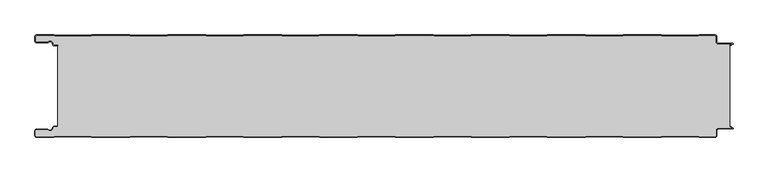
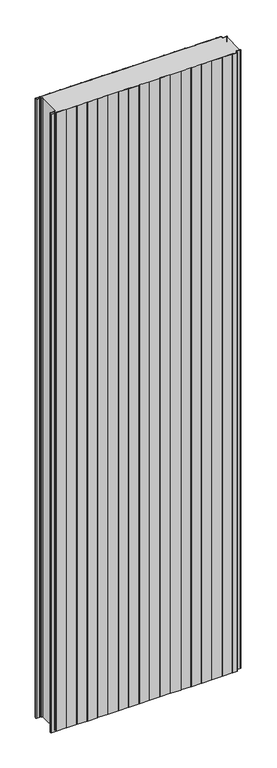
"""IFC4 building model written with IfcOpenShell, lengths in millimetres: plate geometry, ACH_Panel-Frigorífico_PUR-PIR : ACH_Panel-Frigorífico-PIR_150mm."""

from ifc_helpers import new_model, si_unit, point, frame_2d, origin, origin_with_axes, place, context, project, spatial, polyline, circle_curve, trimmed, segment, composite_curve, outline, extrude, source, transform, mapped, element, save


def plate_cd7e678b(model_context):
    return source(origin(), model_context, "Body", "SweptSolid", [
        extrude(outline(composite_curve([segment(trimmed(circle_curve(frame_2d((-497.49499, -9.0180361)), 2.50501), [point((-497.49499, -11.5230461))], [point((-500.0, -9.0180361))], False, "CARTESIAN"), True, "CONTINUOUS"), segment(polyline([(-500.0, -9.0180361), (-500.0, -2.50501)]), True, "CONTINUOUS"), segment(trimmed(circle_curve(frame_2d((-497.49499, -2.50501)), 2.50501), [point((-500.0, -2.50501))], [point((-497.49499, 0.0))], False, "CARTESIAN"), True, "CONTINUOUS"), segment(polyline([(-497.49499, 0.0), (-472.2103007, 0.0), (-471.028188, -0.6012024), (-417.6391467, -0.6012024), (-416.457034, 0.0), (-360.8776353, 0.0), (-359.6955227, -0.6012024), (-306.3064814, -0.6012024), (-305.1243687, 0.0), (-249.54497, 0.0), (-248.3628573, -0.6012024), (-194.973816, -0.6012024), (-193.7917033, 0.0), (-138.2123047, 0.0), (-137.030192, -0.6012024), (-83.6411507, -0.6012024), (-82.459038, 0.0), (-26.8796393, 0.0), (-25.6975267, -0.6012024), (27.6915146, -0.6012024), (28.8736273, 0.0), (84.453026, 0.0), (85.6351387, -0.6012024), (139.02418, -0.6012024), (140.2062927, 0.0), (195.7856913, 0.0), (196.967804, -0.6012024), (250.3568453, -0.6012024), (251.538958, 0.0), (307.1183566, 0.0), (308.3004693, -0.6012024), (361.6895106, -0.6012024), (362.8716233, 0.0), (418.451022, 0.0), (419.6331347, -0.6012024), (473.022176, -0.6012024), (474.2042886, 0.0), (497.49499, 0.0)]), True, "CONTINUOUS"), segment(trimmed(circle_curve(frame_2d((497.49499, -2.50501)), 2.50501), [point((497.49499, 0.0))], [point((500.0, -2.50501))], False, "CARTESIAN"), True, "CONTINUOUS"), segment(polyline([(500.0, -2.50501), (500.0, -10.0200401)]), True, "CONTINUOUS"), segment(trimmed(circle_curve(frame_2d((502.004008, -10.0200401)), 2.004008), [point((500.0, -10.0200401))], [point((502.004008, -12.0240481))], True, "CARTESIAN"), True, "CONTINUOUS"), segment(polyline([(502.004008, -12.0240481), (523.0460922, -12.0240481)]), True, "CONTINUOUS"), segment(trimmed(circle_curve(frame_2d((523.0460922, -13.0260521)), 1.002004), [point((523.0460922, -12.0240481))], [point((523.5470942, -13.893813))], False, "CARTESIAN"), True, "CONTINUOUS"), segment(polyline([(523.5470942, -13.893813), (519.5390782, -16.2078422), (519.1390782, -15.5150218), (522.183956, -13.7570608)]), True, "CONTINUOUS"), segment(trimmed(circle_curve(frame_2d((521.933956, -13.3240481)), 0.5), [point((522.183956, -13.7570608))], [point((521.933956, -12.8240481))], True, "CARTESIAN"), True, "CONTINUOUS"), segment(polyline([(521.933956, -12.8240481), (502.004008, -12.8240481)]), True, "CONTINUOUS"), segment(trimmed(circle_curve(frame_2d((502.004008, -10.0200401)), 2.804008), [point((502.004008, -12.8240481))], [point((499.2, -10.0200401))], False, "CARTESIAN"), True, "CONTINUOUS"), segment(polyline([(499.2, -10.0200401), (499.2, -2.50501)]), True, "CONTINUOUS"), segment(trimmed(circle_curve(frame_2d((497.49499, -2.50501)), 1.70501), [point((499.2, -2.50501))], [point((497.49499, -0.8))], True, "CARTESIAN"), True, "CONTINUOUS"), segment(polyline([(497.49499, -0.8), (474.396035, -0.8), (473.2139223, -1.4012024), (419.4413883, -1.4012024), (418.2592756, -0.8), (363.0633697, -0.8), (361.881257, -1.4012024), (308.108723, -1.4012024), (306.9266103, -0.8), (251.7307044, -0.8), (250.5485917, -1.4012024), (196.7760576, -1.4012024), (195.5939449, -0.8), (140.398039, -0.8), (139.2159263, -1.4012024), (85.4433923, -1.4012024), (84.2612796, -0.8), (29.0653737, -0.8), (27.883261, -1.4012024), (-25.889273, -1.4012024), (-27.0713857, -0.8), (-82.2672916, -0.8), (-83.4494043, -1.4012024), (-137.2219384, -1.4012024), (-138.4040511, -0.8), (-193.599957, -0.8), (-194.7820696, -1.4012024), (-248.5546037, -1.4012024), (-249.7367164, -0.8), (-304.9326223, -0.8), (-306.114735, -1.4012024), (-359.887269, -1.4012024), (-361.0693817, -0.8), (-416.2652876, -0.8), (-417.4474003, -1.4012024), (-471.2199344, -1.4012024), (-472.4020471, -0.8), (-497.49499, -0.8)]), True, "CONTINUOUS"), segment(trimmed(circle_curve(frame_2d((-497.49499, -2.50501)), 1.70501), [point((-497.49499, -0.8))], [point((-499.2, -2.50501))], True, "CARTESIAN"), True, "CONTINUOUS"), segment(polyline([(-499.2, -2.50501), (-499.2, -9.0180361)]), True, "CONTINUOUS"), segment(trimmed(circle_curve(frame_2d((-497.49499, -9.0180361)), 1.70501), [point((-499.2, -9.0180361))], [point((-497.49499, -10.7230461))], True, "CARTESIAN"), True, "CONTINUOUS"), segment(polyline([(-497.49499, -10.7230461), (-481.8173283, -10.7230461)]), True, "CONTINUOUS"), segment(trimmed(circle_curve(frame_2d((-481.8173283, -9.0180361)), 1.70501), [point((-481.8173283, -10.7230461))], [point((-480.6895701, -10.2967936))], True, "CARTESIAN"), True, "CONTINUOUS"), segment(trimmed(circle_curve(frame_2d((-477.8407481, -13.5270541)), 4.307014), [point((-480.6895701, -10.2967936))], [point((-473.7934788, -12.0539686))], False, "CARTESIAN"), True, "CONTINUOUS"), segment(polyline([(-473.7934788, -12.0539686), (-473.0450711, -14.1102019)]), True, "CONTINUOUS"), segment(trimmed(circle_curve(frame_2d((-471.4428858, -13.5270541)), 1.70501), [point((-473.0450711, -14.1102019))], [point((-471.4428858, -15.2320641))], True, "CARTESIAN"), True, "CONTINUOUS"), segment(polyline([(-471.4428858, -15.2320641), (-466.4328657, -15.2320641), (-466.4328657, -16.0320641), (-471.4428858, -16.0320641)]), True, "CONTINUOUS"), segment(trimmed(circle_curve(frame_2d((-471.4428858, -13.5270541)), 2.50501), [point((-471.4428858, -16.0320641))], [point((-473.7968252, -14.383818))], False, "CARTESIAN"), True, "CONTINUOUS"), segment(polyline([(-473.7968252, -14.383818), (-474.5452329, -12.3275847)]), True, "CONTINUOUS"), segment(trimmed(circle_curve(frame_2d((-477.8407481, -13.5270541)), 3.507014), [point((-474.5452329, -12.3275847))], [point((-480.1604199, -10.8967936))], True, "CARTESIAN"), True, "CONTINUOUS"), segment(trimmed(circle_curve(frame_2d((-481.8173283, -9.0180361)), 2.50501), [point((-480.1604199, -10.8967936))], [point((-481.8173283, -11.5230461))], False, "CARTESIAN"), True, "CONTINUOUS"), segment(polyline([(-481.8173283, -11.5230461), (-497.49499, -11.5230461)]), True, "CONTINUOUS")], self_intersect=False)), origin_with_axes(), (0.0, 0.0, 1.0), 3500.0),
        extrude(outline(composite_curve([segment(trimmed(circle_curve(frame_2d((-471.4428858, -13.5270541)), 1.70501), [point((-471.4428858, -15.2320641))], [point((-473.0450711, -14.1102019))], False, "CARTESIAN"), True, "CONTINUOUS"), segment(polyline([(-473.0450711, -14.1102019), (-473.7934788, -12.0539686)]), True, "CONTINUOUS"), segment(trimmed(circle_curve(frame_2d((-477.8407481, -13.5270541)), 4.307014), [point((-473.7934788, -12.0539686))], [point((-480.6895701, -10.2967936))], True, "CARTESIAN"), True, "CONTINUOUS"), segment(trimmed(circle_curve(frame_2d((-481.8173283, -9.0180361)), 1.70501), [point((-480.6895701, -10.2967936))], [point((-481.8173283, -10.7230461))], False, "CARTESIAN"), True, "CONTINUOUS"), segment(polyline([(-481.8173283, -10.7230461), (-497.49499, -10.7230461)]), True, "CONTINUOUS"), segment(trimmed(circle_curve(frame_2d((-497.49499, -9.0180361)), 1.70501), [point((-497.49499, -10.7230461))], [point((-499.2, -9.0180361))], False, "CARTESIAN"), True, "CONTINUOUS"), segment(polyline([(-499.2, -9.0180361), (-499.2, -2.50501)]), True, "CONTINUOUS"), segment(trimmed(circle_curve(frame_2d((-497.49499, -2.50501)), 1.70501), [point((-499.2, -2.50501))], [point((-497.49499, -0.8))], False, "CARTESIAN"), True, "CONTINUOUS"), segment(polyline([(-497.49499, -0.8), (-472.4020471, -0.8), (-471.2199344, -1.4012024), (-417.4474003, -1.4012024), (-416.2652876, -0.8), (-361.0693817, -0.8), (-359.887269, -1.4012024), (-306.114735, -1.4012024), (-304.9326223, -0.8), (-249.7367164, -0.8), (-248.5546037, -1.4012024), (-194.7820696, -1.4012024), (-193.599957, -0.8), (-138.4040511, -0.8), (-137.2219384, -1.4012024), (-83.4494043, -1.4012024), (-82.2672916, -0.8), (-27.0713857, -0.8), (-25.889273, -1.4012024), (27.883261, -1.4012024), (29.0653737, -0.8), (84.2612796, -0.8), (85.4433923, -1.4012024), (139.2159263, -1.4012024), (140.398039, -0.8), (195.5939449, -0.8), (196.7760576, -1.4012024), (250.5485917, -1.4012024), (251.7307044, -0.8), (306.9266103, -0.8), (308.108723, -1.4012024), (361.881257, -1.4012024), (363.0633697, -0.8), (418.2592756, -0.8), (419.4413883, -1.4012024), (473.2139223, -1.4012024), (474.396035, -0.8), (497.49499, -0.8)]), True, "CONTINUOUS"), segment(trimmed(circle_curve(frame_2d((497.49499, -2.50501)), 1.70501), [point((497.49499, -0.8))], [point((499.2, -2.50501))], False, "CARTESIAN"), True, "CONTINUOUS"), segment(polyline([(499.2, -2.50501), (499.2, -10.0200401)]), True, "CONTINUOUS"), segment(trimmed(circle_curve(frame_2d((502.004008, -10.0200401)), 2.804008), [point((499.2, -10.0200401))], [point((502.004008, -12.8240481))], True, "CARTESIAN"), True, "CONTINUOUS"), segment(polyline([(502.004008, -12.8240481), (521.933956, -12.8240481)]), True, "CONTINUOUS"), segment(trimmed(circle_curve(frame_2d((521.933956, -13.3240481)), 0.5), [point((521.933956, -12.8240481))], [point((522.183956, -13.7570608))], False, "CARTESIAN"), True, "CONTINUOUS"), segment(polyline([(522.183956, -13.7570608), (519.1390782, -15.5150218), (519.1390782, -134.4849782), (522.183956, -136.2429392)]), True, "CONTINUOUS"), segment(trimmed(circle_curve(frame_2d((521.933956, -136.6759519)), 0.5), [point((522.183956, -136.2429392))], [point((521.933956, -137.1759519))], False, "CARTESIAN"), True, "CONTINUOUS"), segment(polyline([(521.933956, -137.1759519), (502.004008, -137.1759519)]), True, "CONTINUOUS"), segment(trimmed(circle_curve(frame_2d((502.004008, -139.9799599)), 2.804008), [point((502.004008, -137.1759519))], [point((499.2, -139.9799599))], True, "CARTESIAN"), True, "CONTINUOUS"), segment(polyline([(499.2, -139.9799599), (499.2, -147.49499)]), True, "CONTINUOUS"), segment(trimmed(circle_curve(frame_2d((497.49499, -147.49499)), 1.70501), [point((499.2, -147.49499))], [point((497.49499, -149.2))], False, "CARTESIAN"), True, "CONTINUOUS"), segment(polyline([(497.49499, -149.2), (474.396035, -149.2), (473.2139223, -148.5987976), (419.4413883, -148.5987976), (418.2592756, -149.2), (363.0633697, -149.2), (361.881257, -148.5987976), (308.108723, -148.5987976), (306.9266103, -149.2), (251.7307044, -149.2), (250.5485917, -148.5987976), (196.7760576, -148.5987976), (195.5939449, -149.2), (140.398039, -149.2), (139.2159263, -148.5987976), (85.4433923, -148.5987976), (84.2612796, -149.2), (29.0653737, -149.2), (27.883261, -148.5987976), (-25.889273, -148.5987976), (-27.0713857, -149.2), (-82.2672916, -149.2), (-83.4494043, -148.5987976), (-137.2219384, -148.5987976), (-138.4040511, -149.2), (-193.599957, -149.2), (-194.7820696, -148.5987976), (-248.5546037, -148.5987976), (-249.7367164, -149.2), (-304.9326223, -149.2), (-306.114735, -148.5987976), (-359.887269, -148.5987976), (-361.0693817, -149.2), (-416.2652876, -149.2), (-417.4474003, -148.5987976), (-471.2199344, -148.5987976), (-472.4020471, -149.2), (-497.49499, -149.2)]), True, "CONTINUOUS"), segment(trimmed(circle_curve(frame_2d((-497.49499, -147.49499)), 1.70501), [point((-497.49499, -149.2))], [point((-499.2, -147.49499))], False, "CARTESIAN"), True, "CONTINUOUS"), segment(polyline([(-499.2, -147.49499), (-499.2, -140.9819639)]), True, "CONTINUOUS"), segment(trimmed(circle_curve(frame_2d((-497.49499, -140.9819639)), 1.70501), [point((-499.2, -140.9819639))], [point((-497.49499, -139.2769539))], False, "CARTESIAN"), True, "CONTINUOUS"), segment(polyline([(-497.49499, -139.2769539), (-481.8173283, -139.2769539)]), True, "CONTINUOUS"), segment(trimmed(circle_curve(frame_2d((-481.8173283, -140.9819639)), 1.70501), [point((-481.8173283, -139.2769539))], [point((-480.6895701, -139.7032064))], False, "CARTESIAN"), True, "CONTINUOUS"), segment(trimmed(circle_curve(frame_2d((-477.8407481, -136.4729459)), 4.307014), [point((-480.6895701, -139.7032064))], [point((-473.7934788, -137.9460314))], True, "CARTESIAN"), True, "CONTINUOUS"), segment(polyline([(-473.7934788, -137.9460314), (-473.0450711, -135.8897981)]), True, "CONTINUOUS"), segment(trimmed(circle_curve(frame_2d((-471.4428858, -136.4729459)), 1.70501), [point((-473.0450711, -135.8897981))], [point((-471.4428858, -134.7679359))], False, "CARTESIAN"), True, "CONTINUOUS"), segment(polyline([(-471.4428858, -134.7679359), (-466.4328657, -134.7679359), (-466.4328657, -15.2320641), (-471.4428858, -15.2320641)]), True, "CONTINUOUS")], self_intersect=False)), origin_with_axes(), (0.0, 0.0, 1.0), 3500.0),
        extrude(outline(composite_curve([segment(polyline([(-497.49499, -138.4769539), (-481.8173283, -138.4769539)]), True, "CONTINUOUS"), segment(trimmed(circle_curve(frame_2d((-481.8173283, -140.9819639)), 2.50501), [point((-481.8173283, -138.4769539))], [point((-480.1604199, -139.1032064))], False, "CARTESIAN"), True, "CONTINUOUS"), segment(trimmed(circle_curve(frame_2d((-477.8407481, -136.4729459)), 3.507014), [point((-480.1604199, -139.1032064))], [point((-474.5452329, -137.6724153))], True, "CARTESIAN"), True, "CONTINUOUS"), segment(polyline([(-474.5452329, -137.6724153), (-473.7968252, -135.616182)]), True, "CONTINUOUS"), segment(trimmed(circle_curve(frame_2d((-471.4428858, -136.4729459)), 2.50501), [point((-473.7968252, -135.616182))], [point((-471.4428858, -133.9679359))], False, "CARTESIAN"), True, "CONTINUOUS"), segment(polyline([(-471.4428858, -133.9679359), (-466.4328657, -133.9679359), (-466.4328657, -134.7679359), (-471.4428858, -134.7679359)]), True, "CONTINUOUS"), segment(trimmed(circle_curve(frame_2d((-471.4428858, -136.4729459)), 1.70501), [point((-471.4428858, -134.7679359))], [point((-473.0450711, -135.8897981))], True, "CARTESIAN"), True, "CONTINUOUS"), segment(polyline([(-473.0450711, -135.8897981), (-473.7934788, -137.9460314)]), True, "CONTINUOUS"), segment(trimmed(circle_curve(frame_2d((-477.8407481, -136.4729459)), 4.307014), [point((-473.7934788, -137.9460314))], [point((-480.6895701, -139.7032064))], False, "CARTESIAN"), True, "CONTINUOUS"), segment(trimmed(circle_curve(frame_2d((-481.8173283, -140.9819639)), 1.70501), [point((-480.6895701, -139.7032064))], [point((-481.8173283, -139.2769539))], True, "CARTESIAN"), True, "CONTINUOUS"), segment(polyline([(-481.8173283, -139.2769539), (-497.49499, -139.2769539)]), True, "CONTINUOUS"), segment(trimmed(circle_curve(frame_2d((-497.49499, -140.9819639)), 1.70501), [point((-497.49499, -139.2769539))], [point((-499.2, -140.9819639))], True, "CARTESIAN"), True, "CONTINUOUS"), segment(polyline([(-499.2, -140.9819639), (-499.2, -147.49499)]), True, "CONTINUOUS"), segment(trimmed(circle_curve(frame_2d((-497.49499, -147.49499)), 1.70501), [point((-499.2, -147.49499))], [point((-497.49499, -149.2))], True, "CARTESIAN"), True, "CONTINUOUS"), segment(polyline([(-497.49499, -149.2), (-472.4020471, -149.2), (-471.2199344, -148.5987976), (-417.4474003, -148.5987976), (-416.2652876, -149.2), (-361.0693817, -149.2), (-359.887269, -148.5987976), (-306.114735, -148.5987976), (-304.9326223, -149.2), (-249.7367164, -149.2), (-248.5546037, -148.5987976), (-194.7820696, -148.5987976), (-193.599957, -149.2), (-138.4040511, -149.2), (-137.2219384, -148.5987976), (-83.4494043, -148.5987976), (-82.2672916, -149.2), (-27.0713857, -149.2), (-25.889273, -148.5987976), (27.883261, -148.5987976), (29.0653737, -149.2), (84.2612796, -149.2), (85.4433923, -148.5987976), (139.2159263, -148.5987976), (140.398039, -149.2), (195.5939449, -149.2), (196.7760576, -148.5987976), (250.5485917, -148.5987976), (251.7307044, -149.2), (306.9266103, -149.2), (308.108723, -148.5987976), (361.881257, -148.5987976), (363.0633697, -149.2), (418.2592756, -149.2), (419.4413883, -148.5987976), (473.2139223, -148.5987976), (474.396035, -149.2), (497.49499, -149.2)]), True, "CONTINUOUS"), segment(trimmed(circle_curve(frame_2d((497.49499, -147.49499)), 1.70501), [point((497.49499, -149.2))], [point((499.2, -147.49499))], True, "CARTESIAN"), True, "CONTINUOUS"), segment(polyline([(499.2, -147.49499), (499.2, -139.9799599)]), True, "CONTINUOUS"), segment(trimmed(circle_curve(frame_2d((502.004008, -139.9799599)), 2.804008), [point((499.2, -139.9799599))], [point((502.004008, -137.1759519))], False, "CARTESIAN"), True, "CONTINUOUS"), segment(polyline([(502.004008, -137.1759519), (521.933956, -137.1759519)]), True, "CONTINUOUS"), segment(trimmed(circle_curve(frame_2d((521.933956, -136.6759519)), 0.5), [point((521.933956, -137.1759519))], [point((522.183956, -136.2429392))], True, "CARTESIAN"), True, "CONTINUOUS"), segment(polyline([(522.183956, -136.2429392), (519.1390782, -134.4849782), (519.5390782, -133.7921578), (523.5470942, -136.106187)]), True, "CONTINUOUS"), segment(trimmed(circle_curve(frame_2d((523.0460922, -136.9739479)), 1.002004), [point((523.5470942, -136.106187))], [point((523.0460922, -137.9759519))], False, "CARTESIAN"), True, "CONTINUOUS"), segment(polyline([(523.0460922, -137.9759519), (502.004008, -137.9759519)]), True, "CONTINUOUS"), segment(trimmed(circle_curve(frame_2d((502.004008, -139.9799599)), 2.004008), [point((502.004008, -137.9759519))], [point((500.0, -139.9799599))], True, "CARTESIAN"), True, "CONTINUOUS"), segment(polyline([(500.0, -139.9799599), (500.0, -147.49499)]), True, "CONTINUOUS"), segment(trimmed(circle_curve(frame_2d((497.49499, -147.49499)), 2.50501), [point((500.0, -147.49499))], [point((497.49499, -150.0))], False, "CARTESIAN"), True, "CONTINUOUS"), segment(polyline([(497.49499, -150.0), (474.2042886, -150.0), (473.022176, -149.3987976), (419.6331347, -149.3987976), (418.451022, -150.0), (362.8716233, -150.0), (361.6895106, -149.3987976), (308.3004693, -149.3987976), (307.1183566, -150.0), (251.538958, -150.0), (250.3568453, -149.3987976), (196.967804, -149.3987976), (195.7856913, -150.0), (140.2062927, -150.0), (139.02418, -149.3987976), (85.6351387, -149.3987976), (84.453026, -150.0), (28.8736273, -150.0), (27.6915146, -149.3987976), (-25.6975267, -149.3987976), (-26.8796393, -150.0), (-82.459038, -150.0), (-83.6411507, -149.3987976), (-137.030192, -149.3987976), (-138.2123047, -150.0), (-193.7917033, -150.0), (-194.973816, -149.3987976), (-248.3628573, -149.3987976), (-249.54497, -150.0), (-305.1243687, -150.0), (-306.3064814, -149.3987976), (-359.6955227, -149.3987976), (-360.8776353, -150.0), (-416.457034, -150.0), (-417.6391467, -149.3987976), (-471.028188, -149.3987976), (-472.2103007, -150.0), (-497.49499, -150.0)]), True, "CONTINUOUS"), segment(trimmed(circle_curve(frame_2d((-497.49499, -147.49499)), 2.50501), [point((-497.49499, -150.0))], [point((-500.0, -147.49499))], False, "CARTESIAN"), True, "CONTINUOUS"), segment(polyline([(-500.0, -147.49499), (-500.0, -140.9819639)]), True, "CONTINUOUS"), segment(trimmed(circle_curve(frame_2d((-497.49499, -140.9819639)), 2.50501), [point((-500.0, -140.9819639))], [point((-497.49499, -138.4769539))], False, "CARTESIAN"), True, "CONTINUOUS")], self_intersect=False)), origin_with_axes(), (0.0, 0.0, 1.0), 3500.0),
    ])


if __name__ == "__main__":
    model = new_model("IFC4")
    model_context = context("Model", 3, world=origin())
    ifc_project = project(units=[si_unit("LENGTHUNIT", "METRE", prefix="MILLI")], contexts=[model_context])
    site = spatial("IfcSite", under=ifc_project)
    building = spatial("IfcBuilding", under=site)
    placement = place(None, origin())
    plate_shape = plate_cd7e678b(model_context)
    element("IfcPlate", 1, ObjectType="ACH_Panel-Frigorífico_PUR-PIR : ACH_Panel-Frigorífico-PIR_150mm", at=placement, inside=building, context=model_context, shape_type="MappedRepresentation", body=[
        mapped(plate_shape, transform((0.0, 0.0, 0.0), x_axis=(1.0, 0.0, 0.0), y_axis=(0.0, 1.0, 0.0), z_axis=(0.0, 0.0, 1.0))),
    ])
    save(model, "model.ifc")
